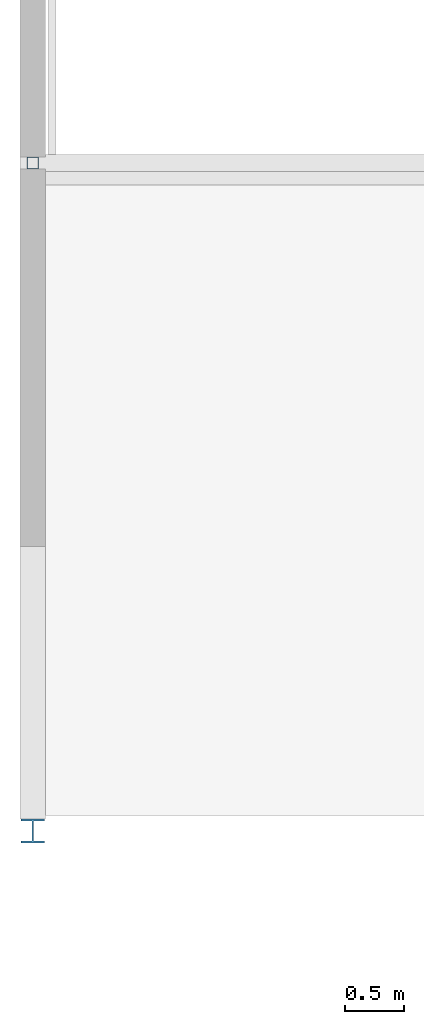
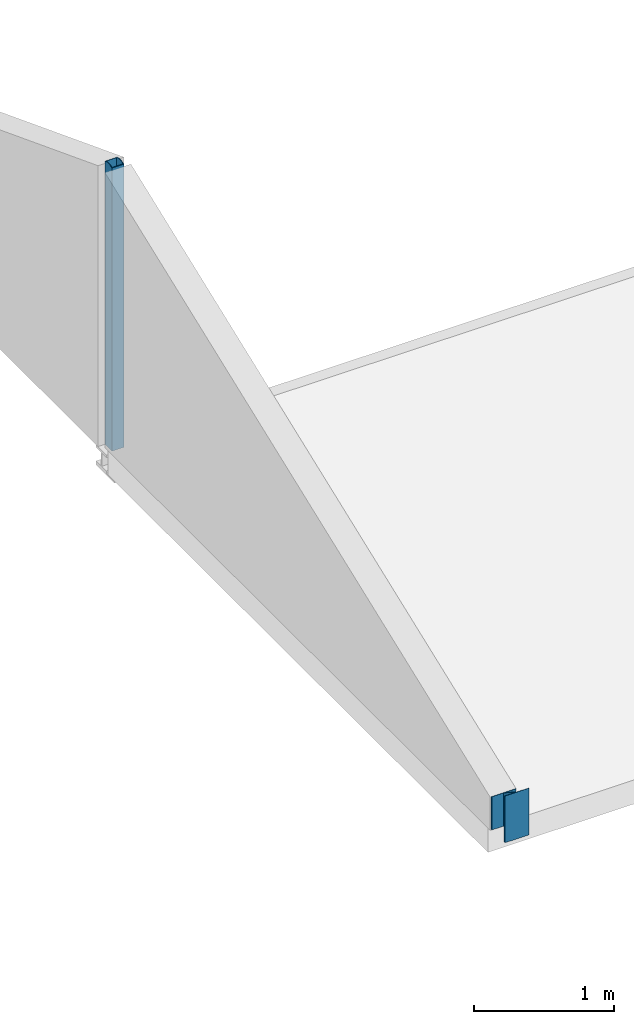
# One storey, part 8 of 10: 2 columns.
"""IFC2X3 building model written with IfcOpenShell, lengths in millimetres."""

from ifc_helpers import new_model, entity, si_unit, converted_unit, derived_unit, direction, frame, origin, place, context, subcontext, project, spatial, faceted_brep, source, transform, mapped, material, type_object, type_shapes, element, save


model = new_model("IFC2X3")

# Units and contexts
model_context = context("Model", 3, precision=0.01, world=origin(), true_north=direction((6.123031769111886e-17, 1.0)))
body_context = subcontext(model_context, "Body", "Model", "MODEL_VIEW")
ifc_project = project(units=[si_unit("LENGTHUNIT", "METRE", prefix="MILLI"), si_unit("AREAUNIT", "SQUARE_METRE", prefix="MILLI"), si_unit("VOLUMEUNIT", "CUBIC_METRE"), converted_unit("PLANEANGLEUNIT", "DEGREE", entity("IfcPlaneAngleMeasure", 0.017453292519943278), si_unit("PLANEANGLEUNIT", "RADIAN"), dimensions=[0, 0, 0, 0, 0, 0, 0]), si_unit("MASSUNIT", "GRAM", prefix="KILO"), derived_unit("MASSDENSITYUNIT", [(si_unit("MASSUNIT", "GRAM", prefix="KILO"), 1), (si_unit("LENGTHUNIT", "METRE"), -3)]), derived_unit("IONCONCENTRATIONUNIT", [(si_unit("MASSUNIT", "GRAM", prefix="KILO"), 1), (si_unit("LENGTHUNIT", "METRE"), -3)]), derived_unit("MOMENTOFINERTIAUNIT", [(si_unit("LENGTHUNIT", "METRE"), 4)]), si_unit("TIMEUNIT", "SECOND"), si_unit("FREQUENCYUNIT", "HERTZ"), si_unit("THERMODYNAMICTEMPERATUREUNIT", "DEGREE_CELSIUS"), derived_unit("THERMALTRANSMITTANCEUNIT", [(si_unit("MASSUNIT", "GRAM", prefix="KILO"), 1), (si_unit("THERMODYNAMICTEMPERATUREUNIT", "KELVIN"), -1), (si_unit("TIMEUNIT", "SECOND"), -3)]), derived_unit("THERMALCONDUCTANCEUNIT", [(si_unit("MASSUNIT", "GRAM", prefix="KILO"), 1), (si_unit("THERMODYNAMICTEMPERATUREUNIT", "KELVIN"), -1), (si_unit("TIMEUNIT", "SECOND"), -3), (si_unit("LENGTHUNIT", "METRE"), 1)]), derived_unit("VOLUMETRICFLOWRATEUNIT", [(si_unit("LENGTHUNIT", "METRE", prefix="DECI"), 3), (si_unit("TIMEUNIT", "SECOND"), -1)]), derived_unit("MASSFLOWRATEUNIT", [(si_unit("MASSUNIT", "GRAM", prefix="KILO"), 1), (si_unit("TIMEUNIT", "SECOND"), -1)]), derived_unit("ROTATIONALFREQUENCYUNIT", [(si_unit("TIMEUNIT", "SECOND"), -1)]), si_unit("ELECTRICCURRENTUNIT", "AMPERE"), si_unit("ELECTRICVOLTAGEUNIT", "VOLT"), si_unit("POWERUNIT", "WATT"), si_unit("FORCEUNIT", "NEWTON", prefix="KILO"), si_unit("ILLUMINANCEUNIT", "LUX"), si_unit("LUMINOUSFLUXUNIT", "LUMEN"), si_unit("LUMINOUSINTENSITYUNIT", "CANDELA"), si_unit("ENERGYUNIT", "JOULE"), derived_unit("USERDEFINED", [(si_unit("MASSUNIT", "GRAM", prefix="KILO"), -1), (si_unit("LENGTHUNIT", "METRE"), -2), (si_unit("TIMEUNIT", "SECOND"), 3), (si_unit("LUMINOUSFLUXUNIT", "LUMEN"), 1)]), derived_unit("USERDEFINED", [(si_unit("MASSUNIT", "GRAM", prefix="KILO"), 1), (si_unit("TIMEUNIT", "SECOND"), -3), (si_unit("LENGTHUNIT", "METRE"), 3), (si_unit("ELECTRICCURRENTUNIT", "AMPERE"), -2)]), derived_unit("SOUNDPOWERUNIT", [(si_unit("MASSUNIT", "GRAM", prefix="KILO"), 1), (si_unit("TIMEUNIT", "SECOND"), -3), (si_unit("LENGTHUNIT", "METRE"), 2)]), derived_unit("SOUNDPRESSUREUNIT", [(si_unit("MASSUNIT", "GRAM", prefix="KILO"), 1), (si_unit("LENGTHUNIT", "METRE"), -1), (si_unit("TIMEUNIT", "SECOND"), -2)]), derived_unit("LINEARVELOCITYUNIT", [(si_unit("LENGTHUNIT", "METRE"), 1), (si_unit("TIMEUNIT", "SECOND"), -1)]), si_unit("PRESSUREUNIT", "PASCAL"), derived_unit("USERDEFINED", [(si_unit("MASSUNIT", "GRAM", prefix="KILO"), 1), (si_unit("LENGTHUNIT", "METRE"), -2), (si_unit("TIMEUNIT", "SECOND"), -2)]), derived_unit("LINEARFORCEUNIT", [(si_unit("MASSUNIT", "GRAM", prefix="KILO"), 1), (si_unit("TIMEUNIT", "SECOND"), -2)]), derived_unit("PLANARFORCEUNIT", [(si_unit("MASSUNIT", "GRAM", prefix="KILO"), 1), (si_unit("LENGTHUNIT", "METRE"), -1), (si_unit("TIMEUNIT", "SECOND"), -2)]), derived_unit("SPECIFICHEATCAPACITYUNIT", [(si_unit("THERMODYNAMICTEMPERATUREUNIT", "KELVIN"), -1), (si_unit("LENGTHUNIT", "METRE"), 2), (si_unit("TIMEUNIT", "SECOND"), -2)]), derived_unit("HEATFLUXDENSITYUNIT", [(si_unit("MASSUNIT", "GRAM", prefix="KILO"), 1), (si_unit("TIMEUNIT", "SECOND"), -3)]), derived_unit("HEATINGVALUEUNIT", [(si_unit("LENGTHUNIT", "METRE"), 2), (si_unit("TIMEUNIT", "SECOND"), -2)]), derived_unit("VAPORPERMEABILITYUNIT", [(si_unit("LENGTHUNIT", "METRE"), -1), (si_unit("TIMEUNIT", "SECOND"), 1)]), derived_unit("DYNAMICVISCOSITYUNIT", [(si_unit("MASSUNIT", "GRAM", prefix="KILO"), 1), (si_unit("TIMEUNIT", "SECOND"), -1), (si_unit("LENGTHUNIT", "METRE"), -1)]), derived_unit("THERMALEXPANSIONCOEFFICIENTUNIT", [(si_unit("THERMODYNAMICTEMPERATUREUNIT", "KELVIN"), -1)]), derived_unit("MODULUSOFELASTICITYUNIT", [(si_unit("MASSUNIT", "GRAM", prefix="KILO"), 1), (si_unit("LENGTHUNIT", "METRE"), -1), (si_unit("TIMEUNIT", "SECOND"), -2)]), derived_unit("ISOTHERMALMOISTURECAPACITYUNIT", [(si_unit("MASSUNIT", "GRAM", prefix="KILO"), -1), (si_unit("LENGTHUNIT", "METRE"), 3)]), derived_unit("MOISTUREDIFFUSIVITYUNIT", [(si_unit("TIMEUNIT", "SECOND"), -1), (si_unit("LENGTHUNIT", "METRE"), 2)]), derived_unit("MASSPERLENGTHUNIT", [(si_unit("MASSUNIT", "GRAM", prefix="KILO"), 1), (si_unit("LENGTHUNIT", "METRE"), -1)]), derived_unit("THERMALRESISTANCEUNIT", [(si_unit("MASSUNIT", "GRAM", prefix="KILO"), -1), (si_unit("TIMEUNIT", "SECOND"), 3), (si_unit("THERMODYNAMICTEMPERATUREUNIT", "KELVIN"), 1)]), derived_unit("ACCELERATIONUNIT", [(si_unit("LENGTHUNIT", "METRE"), 1), (si_unit("TIMEUNIT", "SECOND"), -2)]), derived_unit("ANGULARVELOCITYUNIT", [(si_unit("TIMEUNIT", "SECOND"), -1), (si_unit("PLANEANGLEUNIT", "RADIAN"), 1)]), derived_unit("LINEARSTIFFNESSUNIT", [(si_unit("MASSUNIT", "GRAM", prefix="KILO"), 1), (si_unit("TIMEUNIT", "SECOND"), -2)]), derived_unit("WARPINGCONSTANTUNIT", [(si_unit("LENGTHUNIT", "METRE"), 6)]), derived_unit("LINEARMOMENTUNIT", [(si_unit("MASSUNIT", "GRAM", prefix="KILO"), 1), (si_unit("LENGTHUNIT", "METRE"), 1), (si_unit("TIMEUNIT", "SECOND"), -2)]), derived_unit("TORQUEUNIT", [(si_unit("MASSUNIT", "GRAM", prefix="KILO"), 1), (si_unit("LENGTHUNIT", "METRE"), 2), (si_unit("TIMEUNIT", "SECOND"), -2)])], contexts=[model_context])

# Site, building, storey
site_placement = place(None, origin())
site = spatial("IfcSite", under=ifc_project, at=site_placement, Name="Default", CompositionType="ELEMENT")
building_placement = place(site_placement, origin())
building = spatial("IfcBuilding", under=site, at=building_placement, CompositionType="ELEMENT")
storey_placement = place(building_placement, frame((0.0, 0.0, 10840.0)))
storey = spatial("IfcBuildingStorey", under=building, at=storey_placement, Name="V3 dakvloer", CompositionType="ELEMENT", Elevation=10839.99999999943)

# Columns
ifc_material_1 = material(Name="Metal - Steel - S235 JRG2 (standaard)")
column_type_1 = type_object("IfcColumnType", Name="btk_staal - HE(a-b-m):HEB200", PredefinedType="COLUMN", material=ifc_material_1)
shared_shape_1 = source(origin(), body_context, "Body", "Brep", [
    faceted_brep([(-7.0, 31837.573205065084, 10850.0), (-7.0, 31852.573205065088, 10850.0), (-7.0, 31852.573205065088, 11248.324039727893), (-7.0, 31837.573205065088, 11257.836087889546), (-207.0, 31837.573205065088, 10850.0), (-207.0, 31837.573205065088, 11257.836087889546), (-207.0, 31852.573205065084, 10850.0), (-207.0, 31852.573205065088, 11248.324039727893), (-111.49999999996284, 32022.573205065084, 10850.0), (-111.49999999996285, 31852.573205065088, 10850.0), (-111.49999999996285, 31852.573205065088, 11248.324039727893), (-111.49999999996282, 32022.573205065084, 11140.520827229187), (-207.0, 32022.573205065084, 10850.0), (-207.0, 32022.573205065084, 11140.520827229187), (-207.0, 32037.573205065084, 10850.0), (-207.0, 32037.573205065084, 11131.008779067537), (-7.0, 32037.573205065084, 10850.0), (-7.0, 32037.573205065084, 11131.008779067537), (-7.0, 32022.573205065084, 10850.0), (-102.49999999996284, 32022.573205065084, 10850.0), (-102.49999999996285, 31852.573205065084, 10850.0), (-7.0, 32022.573205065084, 11140.520827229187), (-102.49999999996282, 32022.573205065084, 11140.520827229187), (-102.49999999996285, 31852.573205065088, 11248.324039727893)], [[[0, 1, 2, 3]], [[4, 0, 3, 5]], [[6, 4, 5, 7]], [[8, 9, 10, 11]], [[12, 8, 11, 13]], [[14, 12, 13, 15]], [[16, 14, 15, 17]], [[12, 14, 16, 18, 19, 20, 1, 0, 4, 6, 9, 8]], [[18, 16, 17, 21]], [[19, 18, 21, 22]], [[20, 19, 22, 23]], [[1, 20, 23, 2]], [[9, 6, 7, 10]], [[3, 2, 23, 22, 21, 17, 15, 13, 11, 10, 7, 5]]]),
])
type_shapes(column_type_1, [shared_shape_1])
column_1_placement = place(storey_placement, frame((0.0, 0.0, -10840.0)))
element("IfcColumn", 1, at=column_1_placement, inside=storey, type_object=column_type_1, material=ifc_material_1, Name="btk_staal - HE(a-b-m):HEB200", ObjectType="btk_staal - HE(a-b-m):HEB200", context=body_context, shape_type="MappedRepresentation", body=[
    mapped(shared_shape_1, transform((0.0, 0.0, 0.0), scale=1.0)),
])
ifc_material_2 = material(Name="Metal - Steel - S275 J0H (standaard-kokers/buizen)")
column_type_2 = type_object("IfcColumnType", Name="btk_staal - Koker:K100x100x5.0", PredefinedType="COLUMN", material=ifc_material_2)
shared_shape_2 = source(origin(), body_context, "Body", "Brep", [
    faceted_brep([(-157.0, 37544.38570506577, 10790.0), (-57.0, 37544.38570506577, 10790.0), (-57.0, 37544.38570506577, 13261.175266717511), (-157.0, 37544.38570506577, 13261.175266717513), (-157.0, 37644.38570506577, 10790.0), (-157.0, 37574.7179824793, 13272.799999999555), (-157.0, 37613.994855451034, 13272.799999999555), (-157.0, 37644.38570506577, 13261.153535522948), (-57.0, 37644.38570506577, 10790.0), (-57.0, 37644.38570506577, 13261.153535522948), (-152.0, 37549.38570506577, 10790.0), (-152.0, 37639.38570506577, 10790.0), (-152.0, 37639.385705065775, 13263.069649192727), (-152.0, 37613.99485545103, 13272.799999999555), (-152.0, 37574.7179824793, 13272.799999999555), (-152.0, 37549.38570506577, 13263.091498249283), (-62.0, 37549.38570506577, 10790.0), (-62.0, 37549.38570506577, 13263.091498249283), (-62.0, 37639.38570506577, 10790.0), (-62.0, 37574.7179824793, 13272.799999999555), (-62.0, 37613.994855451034, 13272.799999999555), (-62.0, 37639.38570506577, 13263.069649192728), (-57.0, 37613.99485545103, 13272.799999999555), (-57.0, 37574.7179824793, 13272.799999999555)], [[[0, 1, 2, 3]], [[4, 0, 3, 5, 6, 7]], [[8, 4, 7, 9]], [[10, 11, 12, 13, 14, 15]], [[16, 10, 15, 17]], [[18, 16, 17, 19, 20, 21]], [[22, 20, 19, 23]], [[8, 1, 0, 4], [18, 11, 10, 16]], [[1, 8, 9, 22, 23, 2]], [[11, 18, 21, 12]], [[7, 6, 13, 12, 21, 20, 22, 9]], [[3, 2, 23, 19, 17, 15, 14, 5]], [[13, 6, 5, 14]]]),
])
type_shapes(column_type_2, [shared_shape_2])
column_2_placement = place(storey_placement, frame((0.0, 0.0, -10840.0)))
element("IfcColumn", 2, at=column_2_placement, inside=storey, type_object=column_type_2, material=ifc_material_2, Name="btk_staal - Koker:K100x100x5.0", ObjectType="btk_staal - Koker:K100x100x5.0", context=body_context, shape_type="MappedRepresentation", body=[
    mapped(shared_shape_2, transform((0.0, 0.0, 0.0), scale=1.0)),
])

save(model, "model.ifc")
